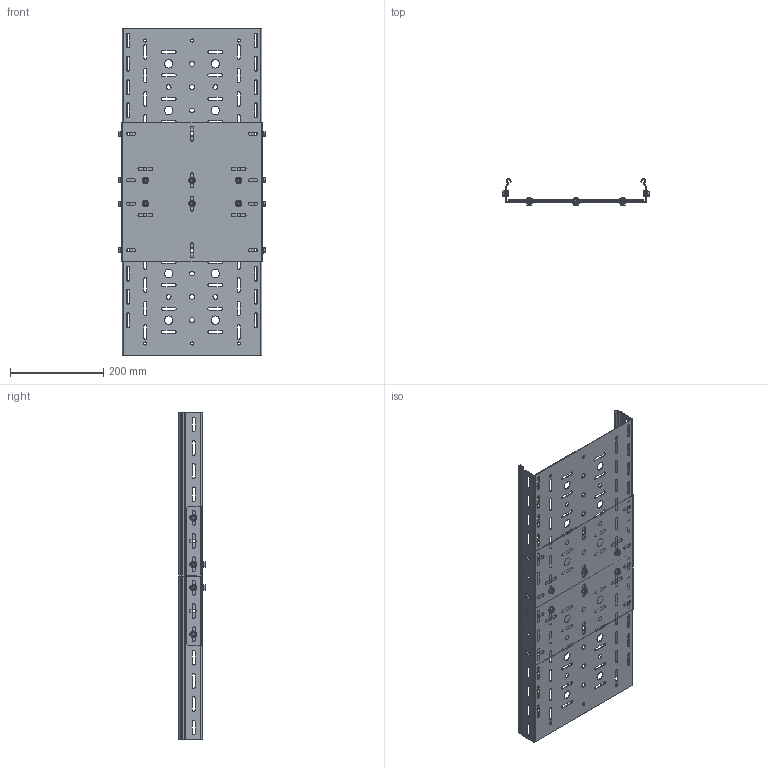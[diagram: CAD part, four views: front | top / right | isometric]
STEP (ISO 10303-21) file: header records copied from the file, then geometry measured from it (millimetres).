
FILE_DESCRIPTION (( 'STEP AP214' ), '1' );
FILE_NAME ('ﾑﾋﾁ+ﾏﾐ+ﾓﾋ(ﾏ)_50.STEP', '2016-10-06T20:49:39', ( '' ), ( '' ), 'SwSTEP 2.0', 'SolidWorks 2016', '' );
FILE_SCHEMA (( 'AUTOMOTIVE_DESIGN' ));
Length unit declared in the file: millimetre
Products named in the file (6): hex flange nut_din_Hexagon Flange Nut DIN 6923 - M6 - N; pan head cross recess screw_din_ISO 7045 - M6 x 10 - Z --- 10N; 060104-060604 玿; 082077-082096 ﾑﾋﾁ ﾓﾋ; ÓË(Ï)-300õÍõ550_3000.1,5.300.50; ﾑﾋﾁ+ﾏﾐ+ﾓﾋ(ﾏ)_50
Assembly tree (32 placements, depth 2):
  ﾑﾋﾁ+ﾏﾐ+ﾓﾋ(ﾏ)_50
    ÓË(Ï)-300õÍõ550_3000.1,5.300.50  x2
    082077-082096 ﾑﾋﾁ ﾓﾋ
    060104-060604 玿
    pan head cross recess screw_din_ISO 7045 - M6 x 10 - Z --- 10N  x14
    hex flange nut_din_Hexagon Flange Nut DIN 6923 - M6 - N  x14
Bounding box: 317 x 57 x 700 mm (x, y, z)
Volume: 564689.4 mm3; surface area: 867770.2 mm2
Topology: 32 solids, 32 shells, 1810 faces, 4646 edges, 2886 vertices
Faces by surface type: plane 784, cylinder 578, cone 252, torus 84, bspline 84, sphere 28
Entity records: 20670 total; most frequent: CARTESIAN_POINT 3734, DIRECTION 3562, ORIENTED_EDGE 3380, EDGE_CURVE 1690, AXIS2_PLACEMENT_3D 1269, VERTEX_POINT 1087, VECTOR 1024, LINE 1024
